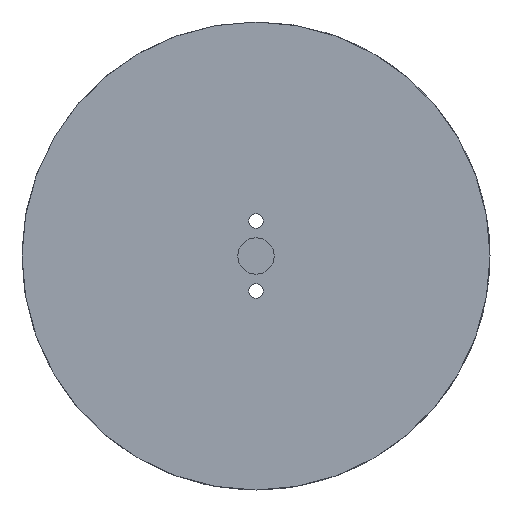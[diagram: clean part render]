
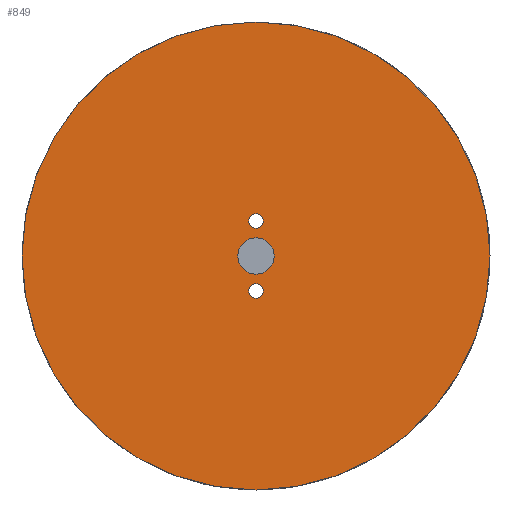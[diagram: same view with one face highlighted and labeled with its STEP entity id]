
A CAD part, front view. The second image highlights one B-rep face of the part: STEP entity #849.
In plain terms, the highlighted planar face has unit normal (0, -1, 0).
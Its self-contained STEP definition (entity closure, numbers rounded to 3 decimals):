
#80=FACE_BOUND('',#152,.T.);
#81=FACE_BOUND('',#153,.T.);
#82=FACE_BOUND('',#154,.T.);
#88=FACE_OUTER_BOUND('',#151,.T.);
#151=EDGE_LOOP('',(#608));
#152=EDGE_LOOP('',(#609));
#153=EDGE_LOOP('',(#610));
#154=EDGE_LOOP('',(#611));
#329=CIRCLE('',#936,48.5);
#330=CIRCLE('',#937,1.5);
#331=CIRCLE('',#938,1.5);
#332=CIRCLE('',#939,3.75);
#400=VERTEX_POINT('',#1538);
#401=VERTEX_POINT('',#1540);
#402=VERTEX_POINT('',#1542);
#403=VERTEX_POINT('',#1544);
#480=EDGE_CURVE('',#400,#400,#329,.T.);
#481=EDGE_CURVE('',#401,#401,#330,.T.);
#482=EDGE_CURVE('',#402,#402,#331,.T.);
#483=EDGE_CURVE('',#403,#403,#332,.T.);
#608=ORIENTED_EDGE('',*,*,#480,.F.);
#609=ORIENTED_EDGE('',*,*,#481,.T.);
#610=ORIENTED_EDGE('',*,*,#482,.T.);
#611=ORIENTED_EDGE('',*,*,#483,.F.);
#830=PLANE('',#935);
#849=ADVANCED_FACE('',(#88,#80,#81,#82),#830,.F.);
#935=AXIS2_PLACEMENT_3D('',#1537,#1084,#1085);
#936=AXIS2_PLACEMENT_3D('',#1539,#1086,#1087);
#937=AXIS2_PLACEMENT_3D('',#1541,#1088,#1089);
#938=AXIS2_PLACEMENT_3D('',#1543,#1090,#1091);
#939=AXIS2_PLACEMENT_3D('',#1545,#1092,#1093);
#1084=DIRECTION('center_axis',(0.,1.,0.));
#1085=DIRECTION('ref_axis',(0.,0.,1.));
#1086=DIRECTION('center_axis',(0.,1.,0.));
#1087=DIRECTION('ref_axis',(0.,0.,1.));
#1088=DIRECTION('center_axis',(0.,1.,0.));
#1089=DIRECTION('ref_axis',(0.,0.,1.));
#1090=DIRECTION('center_axis',(0.,1.,0.));
#1091=DIRECTION('ref_axis',(0.,0.,1.));
#1092=DIRECTION('center_axis',(0.,-1.,0.));
#1093=DIRECTION('ref_axis',(0.,0.,-1.));
#1537=CARTESIAN_POINT('Origin',(0.,0.,0.));
#1538=CARTESIAN_POINT('',(0.,0.,48.5));
#1539=CARTESIAN_POINT('Origin',(0.,0.,0.));
#1540=CARTESIAN_POINT('',(0.,0.,-5.75));
#1541=CARTESIAN_POINT('Origin',(0.,0.,-7.25));
#1542=CARTESIAN_POINT('',(0.,0.,8.75));
#1543=CARTESIAN_POINT('Origin',(0.,0.,7.25));
#1544=CARTESIAN_POINT('',(0.,0.,3.75));
#1545=CARTESIAN_POINT('Origin',(0.,0.,0.));
